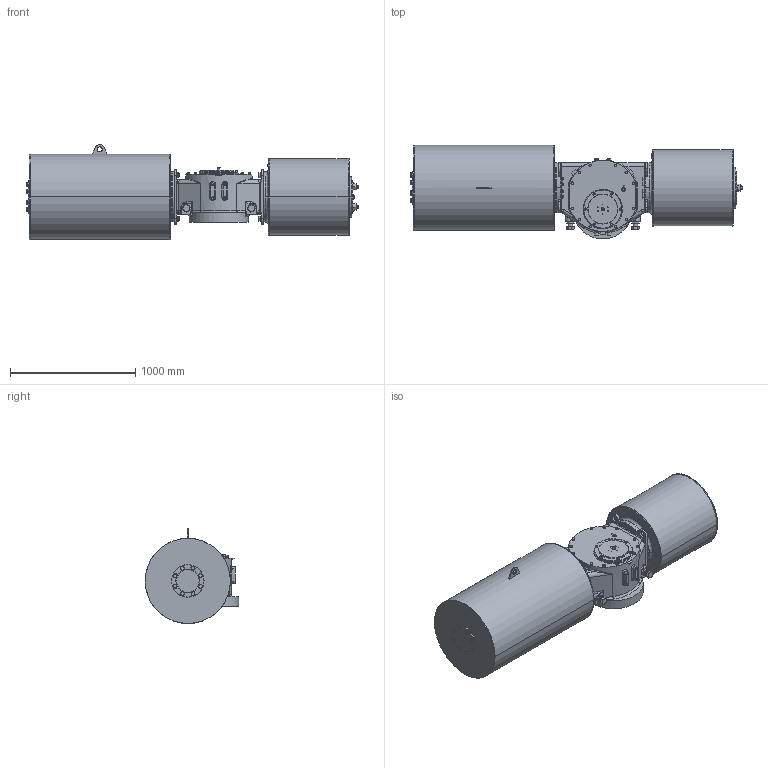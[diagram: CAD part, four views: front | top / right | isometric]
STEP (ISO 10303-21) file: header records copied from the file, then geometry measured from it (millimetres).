
FILE_DESCRIPTION (( 'STEP AP203' ), '1' );
FILE_NAME ('VTS6-600-SR-FO.STEP', '2023-01-01T09:55:04', ( '' ), ( '' ), 'SwSTEP 2.0', 'SolidWorks 2020', '' );
FILE_SCHEMA (( 'CONFIG_CONTROL_DESIGN' ));
Length unit declared in the file: millimetre
Products named in the file (1): VTS6-600-SR-FO
Bounding box: 2654.72 x 749.5 x 761 mm (x, y, z)
Volume: 720635253.2 mm3; surface area: 7635882.5 mm2
Topology: 4 solids, 14 shells, 2454 faces, 6295 edges, 3991 vertices
Faces by surface type: plane 989, cylinder 769, cone 607, bspline 89
Entity records: 89080 total; most frequent: CARTESIAN_POINT 30327, ORIENTED_EDGE 12450, DIRECTION 12234, EDGE_CURVE 6225, AXIS2_PLACEMENT_3D 4888, VERTEX_POINT 3991, EDGE_LOOP 2772, CIRCLE 2522
